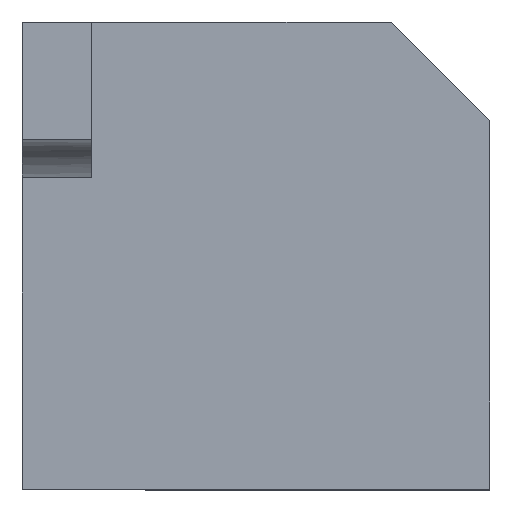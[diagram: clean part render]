
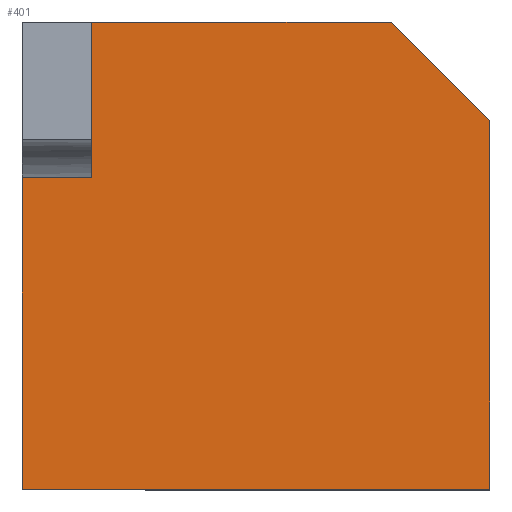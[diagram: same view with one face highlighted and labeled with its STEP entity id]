
A CAD part, top view. The second image highlights one B-rep face of the part: STEP entity #401.
In plain terms, the highlighted planar face has unit normal (0, 0, 1).
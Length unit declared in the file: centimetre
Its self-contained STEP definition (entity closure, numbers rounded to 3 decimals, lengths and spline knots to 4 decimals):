
#25 = ORIENTED_EDGE ( 'NONE', *, *, #172, .T. ) ;
#37 = EDGE_CURVE ( 'NONE', #590, #477, #686, .T. ) ;
#57 = ORIENTED_EDGE ( 'NONE', *, *, #462, .T. ) ;
#82 = VECTOR ( 'NONE', #219, 100. ) ;
#86 = CARTESIAN_POINT ( 'NONE',  ( 894.6778, 894.6778, 1000. ) ) ;
#89 = DIRECTION ( 'NONE',  ( -1., 0., 0. ) ) ;
#91 = CARTESIAN_POINT ( 'NONE',  ( 0., 0., 1000. ) ) ;
#96 = LINE ( 'NONE', #416, #82 ) ;
#97 = CARTESIAN_POINT ( 'NONE',  ( 148.2303, 666.3141, 1000. ) ) ;
#101 = DIRECTION ( 'NONE',  ( 0., 0., 1. ) ) ;
#122 = VERTEX_POINT ( 'NONE', #251 ) ;
#131 = EDGE_LOOP ( 'NONE', ( #427, #247, #57, #25, #309, #360, #638 ) ) ;
#170 = VECTOR ( 'NONE', #89, 100. ) ;
#172 = EDGE_CURVE ( 'NONE', #185, #469, #227, .T. ) ;
#185 = VERTEX_POINT ( 'NONE', #576 ) ;
#199 = LINE ( 'NONE', #86, #682 ) ;
#201 = AXIS2_PLACEMENT_3D ( 'NONE', #91, #101, #291 ) ;
#219 = DIRECTION ( 'NONE',  ( 1., 0., 0. ) ) ;
#226 = LINE ( 'NONE', #97, #846 ) ;
#227 = LINE ( 'NONE', #782, #319 ) ;
#236 = CARTESIAN_POINT ( 'NONE',  ( 148.2303, 1000., 1000. ) ) ;
#247 = ORIENTED_EDGE ( 'NONE', *, *, #718, .F. ) ;
#251 = CARTESIAN_POINT ( 'NONE',  ( 148.2303, 666.3141, 1000. ) ) ;
#277 = VERTEX_POINT ( 'NONE', #431 ) ;
#287 = DIRECTION ( 'NONE',  ( 0., -1., 0. ) ) ;
#291 = DIRECTION ( 'NONE',  ( 1., 0., 0. ) ) ;
#309 = ORIENTED_EDGE ( 'NONE', *, *, #520, .T. ) ;
#317 = CARTESIAN_POINT ( 'NONE',  ( 789.3556, 1000., 1000. ) ) ;
#319 = VECTOR ( 'NONE', #374, 100. ) ;
#338 = CARTESIAN_POINT ( 'NONE',  ( 1000., 1000., 1000. ) ) ;
#349 = CARTESIAN_POINT ( 'NONE',  ( 0., 1000., 1000. ) ) ;
#353 = LINE ( 'NONE', #338, #586 ) ;
#360 = ORIENTED_EDGE ( 'NONE', *, *, #719, .T. ) ;
#374 = DIRECTION ( 'NONE',  ( 1., 0., 0. ) ) ;
#401 = ADVANCED_FACE ( 'NONE', ( #490 ), #687, .T. ) ;
#407 = CARTESIAN_POINT ( 'NONE',  ( 0., 1000., 1000. ) ) ;
#416 = CARTESIAN_POINT ( 'NONE',  ( 0., 666.3141, 1000. ) ) ;
#427 = ORIENTED_EDGE ( 'NONE', *, *, #815, .F. ) ;
#431 = CARTESIAN_POINT ( 'NONE',  ( 0., 666.3141, 1000. ) ) ;
#433 = LINE ( 'NONE', #349, #545 ) ;
#445 = DIRECTION ( 'NONE',  ( 0., 1., 0. ) ) ;
#462 = EDGE_CURVE ( 'NONE', #277, #185, #433, .T. ) ;
#469 = VERTEX_POINT ( 'NONE', #831 ) ;
#475 = CARTESIAN_POINT ( 'NONE',  ( 1000., 789.3556, 1000. ) ) ;
#477 = VERTEX_POINT ( 'NONE', #236 ) ;
#490 = FACE_OUTER_BOUND ( 'NONE', #131, .T. ) ;
#520 = EDGE_CURVE ( 'NONE', #469, #610, #353, .T. ) ;
#545 = VECTOR ( 'NONE', #287, 100. ) ;
#576 = CARTESIAN_POINT ( 'NONE',  ( 0., 0., 1000. ) ) ;
#586 = VECTOR ( 'NONE', #692, 100. ) ;
#590 = VERTEX_POINT ( 'NONE', #317 ) ;
#610 = VERTEX_POINT ( 'NONE', #475 ) ;
#613 = DIRECTION ( 'NONE',  ( -0.707, 0.707, 0. ) ) ;
#638 = ORIENTED_EDGE ( 'NONE', *, *, #37, .T. ) ;
#682 = VECTOR ( 'NONE', #613, 100. ) ;
#686 = LINE ( 'NONE', #407, #170 ) ;
#687 = PLANE ( 'NONE',  #201 ) ;
#692 = DIRECTION ( 'NONE',  ( 0., 1., 0. ) ) ;
#718 = EDGE_CURVE ( 'NONE', #277, #122, #96, .T. ) ;
#719 = EDGE_CURVE ( 'NONE', #610, #590, #199, .T. ) ;
#782 = CARTESIAN_POINT ( 'NONE',  ( 0., 0., 1000. ) ) ;
#815 = EDGE_CURVE ( 'NONE', #122, #477, #226, .T. ) ;
#831 = CARTESIAN_POINT ( 'NONE',  ( 1000., 0., 1000. ) ) ;
#846 = VECTOR ( 'NONE', #445, 100. ) ;
